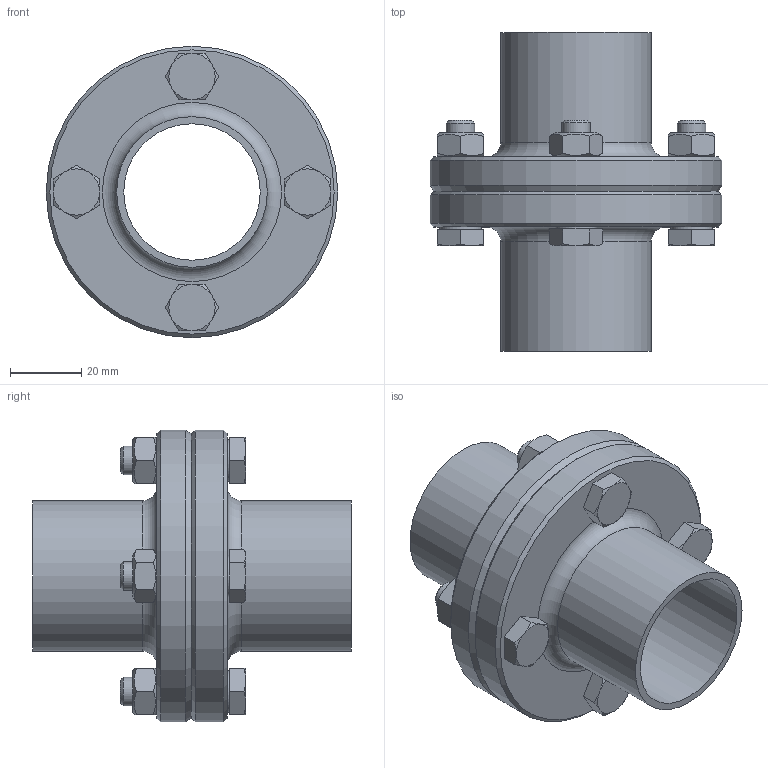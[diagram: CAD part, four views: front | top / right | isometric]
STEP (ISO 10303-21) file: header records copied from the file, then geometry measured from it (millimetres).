
FILE_DESCRIPTION(/* description */ ('DIN11864-2-A_42,4x2_L90_Fl82'),/* implementation_level */ '2;1');
FILE_NAME(/* name */ 'DIN11864-2-A_42,4x2_L90_Fl82.stp',/* time_stamp */ '2015-01-07T13:14:44+01:00',/* author */ ('DOCKWEILER AG'),/* organization */ ('DOCKWEILER AG'),/* preprocessor_version */ 'ST-DEVELOPER v15.6',/* originating_system */ 'Autodesk Inventor 2015',/* authorisation */ '');
FILE_SCHEMA (('CONFIG_CONTROL_DESIGN'));
Length unit declared in the file: millimetre
Products named in the file (6): N0003_007_003_18; N0003_007_004_18; N005_005_002_001_17; ISO 4032 - M8ISO; ISO 4017 - M8 x 30ISO; N0024_002_002
Assembly tree (11 placements, depth 2):
  N0024_002_002
    N0003_007_003_18
    N0003_007_004_18
    N005_005_002_001_17
    ISO 4032 - M8ISO  x4
    ISO 4017 - M8 x 30ISO  x4
Bounding box: 82 x 89.7 x 82 mm (x, y, z)
Volume: 106405.3 mm3; surface area: 52394.1 mm2
Topology: 11 solids, 11 shells, 174 faces, 362 edges, 222 vertices
Faces by surface type: plane 82, cone 52, cylinder 28, torus 12
Full cylindrical faces by diameter (mm): 6.647 x4, 8 x4, 9 x8, 11.63 x4, 38.4 x2, 42.4 x2, 54 x1, 54.1 x1, 82 x2
Entity records: 2080 total; most frequent: DIRECTION 352, CARTESIAN_POINT 352, ORIENTED_EDGE 228, AXIS2_PLACEMENT_3D 167, EDGE_LOOP 151, EDGE_CURVE 114, VERTEX_POINT 95, FACE_OUTER_BOUND 78
